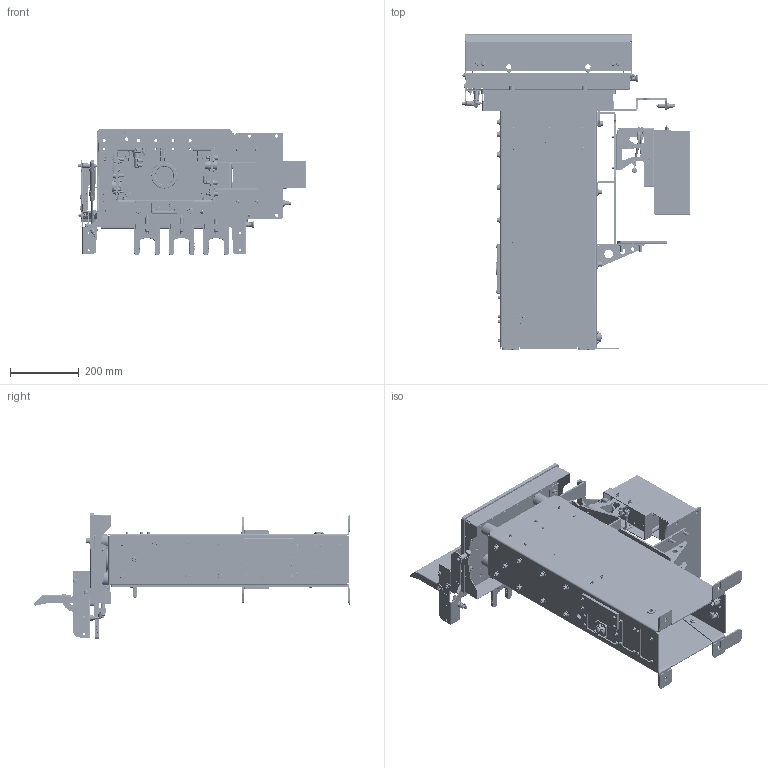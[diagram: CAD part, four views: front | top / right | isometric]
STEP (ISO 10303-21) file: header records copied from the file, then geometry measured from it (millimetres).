
FILE_DESCRIPTION((''),'2;1');
FILE_NAME('BH0024','2018-08-29T',('Licht.Sebastian'),('FRONIUS_International_GmbH'),'PRO/ENGINEER BY PARAMETRIC TECHNOLOGY CORPORATION, 2016100','PRO/ENGINEER BY PARAMETRIC TECHNOLOGY CORPORATION, 2016100','');
FILE_SCHEMA(('AUTOMOTIVE_DESIGN { 1 0 10303 214 1 1 1 1 }'));
Products named in the file (1): BH0024
Bounding box: 662.5 x 918.79 x 365 mm (x, y, z)
Volume: 6655271.2 mm3; surface area: 2838497.9 mm2
Topology: 4 solids, 8 shells, 10976 faces, 27091 edges, 16883 vertices
Faces by surface type: plane 5236, cylinder 3076, cone 1491, torus 983, sphere 95, bspline 95
Entity records: 428160 total; most frequent: CARTESIAN_POINT 115282, DIRECTION 55456, ORIENTED_EDGE 53944, EDGE_CURVE 26972, AXIS2_PLACEMENT_3D 20493, VERTEX_POINT 16883, VECTOR 14470, LINE 14470
